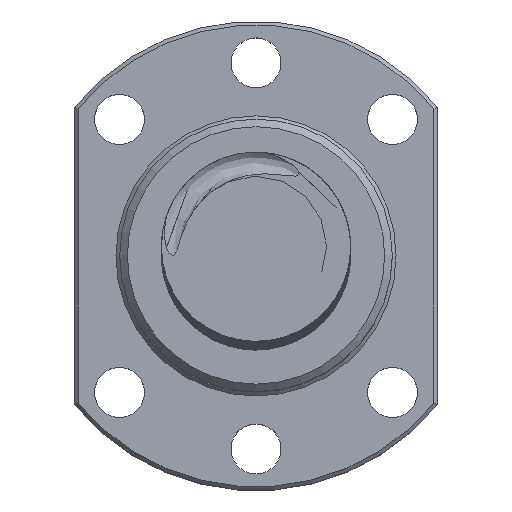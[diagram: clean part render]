
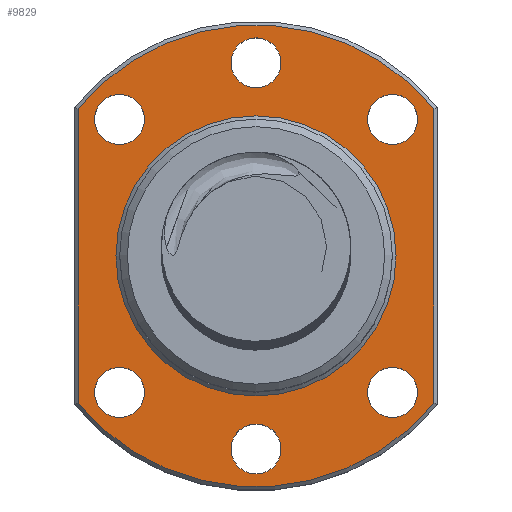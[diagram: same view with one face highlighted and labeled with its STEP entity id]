
A CAD part, top view. The second image highlights one B-rep face of the part: STEP entity #9829.
In plain terms, the highlighted planar face has unit normal (0, 0, 1).
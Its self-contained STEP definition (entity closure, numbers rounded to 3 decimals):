
#21 = AXIS2_PLACEMENT_3D ( 'NONE', #2238, #20335, #3972 ) ;
#26 = CIRCLE ( 'NONE', #7931, 30.5 ) ;
#258 = CARTESIAN_POINT ( 'NONE',  ( 0., 0., 10. ) ) ;
#522 = VERTEX_POINT ( 'NONE', #9332 ) ;
#701 = FACE_BOUND ( 'NONE', #13136, .T. ) ;
#1132 = FACE_OUTER_BOUND ( 'NONE', #3518, .T. ) ;
#1387 = CIRCLE ( 'NONE', #18936, 3.3 ) ;
#1734 = AXIS2_PLACEMENT_3D ( 'NONE', #2085, #6937, #3604 ) ;
#2085 = CARTESIAN_POINT ( 'NONE',  ( 0., -25.5, 10. ) ) ;
#2108 = ORIENTED_EDGE ( 'NONE', *, *, #19264, .F. ) ;
#2238 = CARTESIAN_POINT ( 'NONE',  ( 0., 0., 10. ) ) ;
#2359 = DIRECTION ( 'NONE',  ( 0., 0., 1. ) ) ;
#2428 = CIRCLE ( 'NONE', #12047, 3.3 ) ;
#2507 = DIRECTION ( 'NONE',  ( 1., 0., 0. ) ) ;
#2648 = DIRECTION ( 'NONE',  ( 0., 0., 1. ) ) ;
#2749 = DIRECTION ( 'NONE',  ( 1., 0., 0. ) ) ;
#2932 = LINE ( 'NONE', #16179, #8652 ) ;
#3114 = CIRCLE ( 'NONE', #1734, 3.3 ) ;
#3195 = CARTESIAN_POINT ( 'NONE',  ( 21.331, -18.031, 10. ) ) ;
#3203 = CARTESIAN_POINT ( 'NONE',  ( 23.5, 0., 10. ) ) ;
#3518 = EDGE_LOOP ( 'NONE', ( #10402, #17106, #11094, #8528 ) ) ;
#3604 = DIRECTION ( 'NONE',  ( 1., 0., 0. ) ) ;
#3889 = DIRECTION ( 'NONE',  ( 1., 0., 0. ) ) ;
#3972 = DIRECTION ( 'NONE',  ( 1., 0., 0. ) ) ;
#4431 = CIRCLE ( 'NONE', #11640, 30.5 ) ;
#4604 = VERTEX_POINT ( 'NONE', #11163 ) ;
#4710 = VERTEX_POINT ( 'NONE', #10395 ) ;
#4927 = CARTESIAN_POINT ( 'NONE',  ( -14.731, 18.031, 10. ) ) ;
#5052 = CARTESIAN_POINT ( 'NONE',  ( -18.031, 18.031, 10. ) ) ;
#5064 = EDGE_CURVE ( 'NONE', #11373, #11373, #15911, .T. ) ;
#5136 = CARTESIAN_POINT ( 'NONE',  ( -23.5, 19.442, 10. ) ) ;
#5264 = DIRECTION ( 'NONE',  ( 0., 0., 1. ) ) ;
#5294 = ORIENTED_EDGE ( 'NONE', *, *, #13862, .F. ) ;
#5967 = CIRCLE ( 'NONE', #7033, 3.3 ) ;
#6247 = AXIS2_PLACEMENT_3D ( 'NONE', #7709, #17080, #2749 ) ;
#6825 = DIRECTION ( 'NONE',  ( 0., 0., 1. ) ) ;
#6892 = EDGE_CURVE ( 'NONE', #21293, #21293, #2428, .T. ) ;
#6937 = DIRECTION ( 'NONE',  ( 0., 0., 1. ) ) ;
#7004 = CARTESIAN_POINT ( 'NONE',  ( 0., 25.5, 10. ) ) ;
#7033 = AXIS2_PLACEMENT_3D ( 'NONE', #7252, #7468, #2507 ) ;
#7252 = CARTESIAN_POINT ( 'NONE',  ( -18.031, -18.031, 10. ) ) ;
#7283 = CARTESIAN_POINT ( 'NONE',  ( 18.031, 18.031, 10. ) ) ;
#7468 = DIRECTION ( 'NONE',  ( 0., 0., 1. ) ) ;
#7497 = FACE_BOUND ( 'NONE', #8196, .T. ) ;
#7709 = CARTESIAN_POINT ( 'NONE',  ( 0., 0., 10. ) ) ;
#7832 = EDGE_CURVE ( 'NONE', #13100, #13100, #8627, .T. ) ;
#7931 = AXIS2_PLACEMENT_3D ( 'NONE', #12656, #2648, #17401 ) ;
#8196 = EDGE_LOOP ( 'NONE', ( #2108 ) ) ;
#8220 = EDGE_CURVE ( 'NONE', #14496, #14496, #18581, .T. ) ;
#8528 = ORIENTED_EDGE ( 'NONE', *, *, #12714, .T. ) ;
#8627 = CIRCLE ( 'NONE', #18250, 3.3 ) ;
#8652 = VECTOR ( 'NONE', #11117, 1000. ) ;
#8666 = DIRECTION ( 'NONE',  ( 1., 0., 0. ) ) ;
#8860 = DIRECTION ( 'NONE',  ( 0., 0., 1. ) ) ;
#8898 = PLANE ( 'NONE',  #6247 ) ;
#9332 = CARTESIAN_POINT ( 'NONE',  ( 23.5, 19.442, 10. ) ) ;
#9829 = ADVANCED_FACE ( 'NONE', ( #12221, #701, #13839, #14165, #10613, #7497, #1132, #14056 ), #8898, .T. ) ;
#10223 = EDGE_LOOP ( 'NONE', ( #5294 ) ) ;
#10395 = CARTESIAN_POINT ( 'NONE',  ( -23.5, -19.442, 10. ) ) ;
#10402 = ORIENTED_EDGE ( 'NONE', *, *, #11611, .T. ) ;
#10435 = EDGE_LOOP ( 'NONE', ( #18822 ) ) ;
#10613 = FACE_BOUND ( 'NONE', #19935, .T. ) ;
#11094 = ORIENTED_EDGE ( 'NONE', *, *, #19532, .T. ) ;
#11117 = DIRECTION ( 'NONE',  ( 0., -1., 0. ) ) ;
#11163 = CARTESIAN_POINT ( 'NONE',  ( 3.3, -25.5, 10. ) ) ;
#11373 = VERTEX_POINT ( 'NONE', #3195 ) ;
#11611 = EDGE_CURVE ( 'NONE', #4710, #13763, #4431, .T. ) ;
#11640 = AXIS2_PLACEMENT_3D ( 'NONE', #258, #6825, #8666 ) ;
#11864 = CARTESIAN_POINT ( 'NONE',  ( 18.031, -18.031, 10. ) ) ;
#12047 = AXIS2_PLACEMENT_3D ( 'NONE', #7004, #2359, #3889 ) ;
#12085 = CARTESIAN_POINT ( 'NONE',  ( 23.5, -19.442, 10. ) ) ;
#12221 = FACE_BOUND ( 'NONE', #10435, .T. ) ;
#12380 = CARTESIAN_POINT ( 'NONE',  ( 18.5, 0., 10. ) ) ;
#12656 = CARTESIAN_POINT ( 'NONE',  ( 0., 0., 10. ) ) ;
#12714 = EDGE_CURVE ( 'NONE', #13895, #4710, #2932, .T. ) ;
#12780 = CARTESIAN_POINT ( 'NONE',  ( 21.331, 18.031, 10. ) ) ;
#12883 = CARTESIAN_POINT ( 'NONE',  ( -14.731, -18.031, 10. ) ) ;
#13001 = LINE ( 'NONE', #3203, #15155 ) ;
#13100 = VERTEX_POINT ( 'NONE', #4927 ) ;
#13136 = EDGE_LOOP ( 'NONE', ( #14306 ) ) ;
#13679 = ORIENTED_EDGE ( 'NONE', *, *, #8220, .T. ) ;
#13763 = VERTEX_POINT ( 'NONE', #12085 ) ;
#13839 = FACE_BOUND ( 'NONE', #10223, .T. ) ;
#13841 = DIRECTION ( 'NONE',  ( 1., 0., 0. ) ) ;
#13862 = EDGE_CURVE ( 'NONE', #15732, #15732, #5967, .T. ) ;
#13895 = VERTEX_POINT ( 'NONE', #5136 ) ;
#14056 = FACE_BOUND ( 'NONE', #20581, .T. ) ;
#14165 = FACE_BOUND ( 'NONE', #14880, .T. ) ;
#14306 = ORIENTED_EDGE ( 'NONE', *, *, #5064, .F. ) ;
#14496 = VERTEX_POINT ( 'NONE', #12380 ) ;
#14737 = DIRECTION ( 'NONE',  ( 1., 0., 0. ) ) ;
#14880 = EDGE_LOOP ( 'NONE', ( #16282 ) ) ;
#15155 = VECTOR ( 'NONE', #16346, 1000. ) ;
#15217 = DIRECTION ( 'NONE',  ( 1., 0., 0. ) ) ;
#15732 = VERTEX_POINT ( 'NONE', #12883 ) ;
#15911 = CIRCLE ( 'NONE', #16949, 3.3 ) ;
#16179 = CARTESIAN_POINT ( 'NONE',  ( -23.5, 0., 10. ) ) ;
#16282 = ORIENTED_EDGE ( 'NONE', *, *, #20450, .F. ) ;
#16346 = DIRECTION ( 'NONE',  ( 0., 1., 0. ) ) ;
#16764 = DIRECTION ( 'NONE',  ( 0., 0., 1. ) ) ;
#16949 = AXIS2_PLACEMENT_3D ( 'NONE', #11864, #8860, #15217 ) ;
#17080 = DIRECTION ( 'NONE',  ( 0., 0., 1. ) ) ;
#17106 = ORIENTED_EDGE ( 'NONE', *, *, #18868, .T. ) ;
#17401 = DIRECTION ( 'NONE',  ( 1., 0., 0. ) ) ;
#18250 = AXIS2_PLACEMENT_3D ( 'NONE', #5052, #5264, #14737 ) ;
#18581 = CIRCLE ( 'NONE', #21, 18.5 ) ;
#18822 = ORIENTED_EDGE ( 'NONE', *, *, #6892, .F. ) ;
#18868 = EDGE_CURVE ( 'NONE', #13763, #522, #13001, .T. ) ;
#18936 = AXIS2_PLACEMENT_3D ( 'NONE', #7283, #16764, #13841 ) ;
#19264 = EDGE_CURVE ( 'NONE', #20970, #20970, #1387, .T. ) ;
#19532 = EDGE_CURVE ( 'NONE', #522, #13895, #26, .T. ) ;
#19935 = EDGE_LOOP ( 'NONE', ( #20980 ) ) ;
#20335 = DIRECTION ( 'NONE',  ( 0., 0., -1. ) ) ;
#20450 = EDGE_CURVE ( 'NONE', #4604, #4604, #3114, .T. ) ;
#20574 = CARTESIAN_POINT ( 'NONE',  ( 3.3, 25.5, 10. ) ) ;
#20581 = EDGE_LOOP ( 'NONE', ( #13679 ) ) ;
#20970 = VERTEX_POINT ( 'NONE', #12780 ) ;
#20980 = ORIENTED_EDGE ( 'NONE', *, *, #7832, .F. ) ;
#21293 = VERTEX_POINT ( 'NONE', #20574 ) ;
